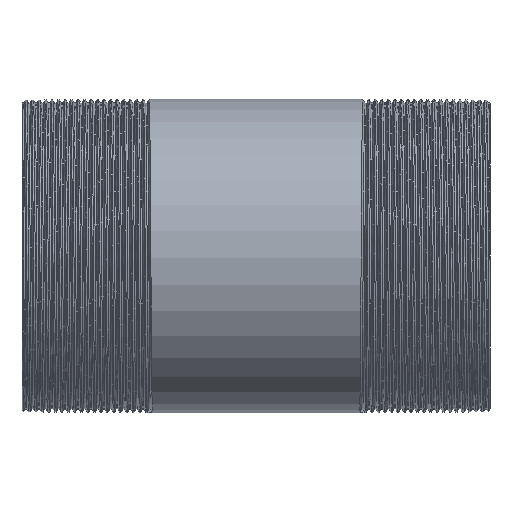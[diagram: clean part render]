
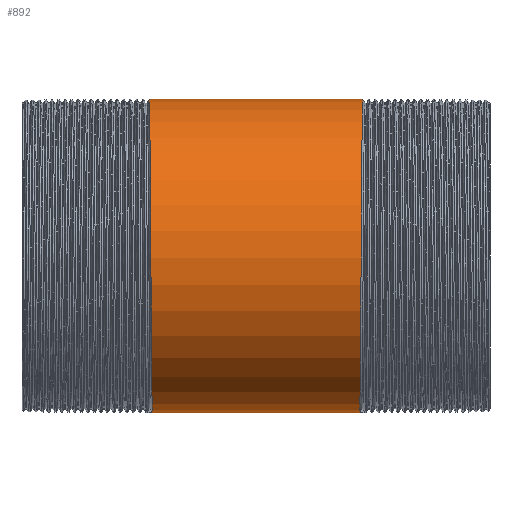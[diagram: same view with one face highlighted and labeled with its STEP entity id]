
A CAD part, front view. The second image highlights one B-rep face of the part: STEP entity #892.
In plain terms, the highlighted cylindrical face has radius 30.15 mm (diameter 60.3 mm), a partial arc.
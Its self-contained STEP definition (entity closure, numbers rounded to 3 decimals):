
#892 = ADVANCED_FACE ( 'NONE', ( #11647 ), #4234, .T. ) ;
#1322 = CARTESIAN_POINT ( 'NONE',  ( -20.141, -30.15, -12.489 ) ) ;
#1623 = CARTESIAN_POINT ( 'NONE',  ( -20.531, 0., 30.15 ) ) ;
#1712 = CARTESIAN_POINT ( 'NONE',  ( -20.453, -12.489, 30.15 ) ) ;
#1764 = DIRECTION ( 'NONE',  ( -1., 0., 0. ) ) ;
#1893 = CARTESIAN_POINT ( 'NONE',  ( -20.531, 0., 30.15 ) ) ;
#2305 = EDGE_LOOP ( 'NONE', ( #6417, #13532, #3732, #14582 ) ) ;
#2740 = EDGE_CURVE ( 'NONE', #8764, #8556, #11856, .T. ) ;
#2901 = CARTESIAN_POINT ( 'NONE',  ( -19.906, 0., -30.15 ) ) ;
#2960 = CARTESIAN_POINT ( 'NONE',  ( -149.494, 0., 30.15 ) ) ;
#2977 = EDGE_CURVE ( 'NONE', #8556, #16615, #13280, .T. ) ;
#3607 = VECTOR ( 'NONE', #1764, 1000. ) ;
#3732 = ORIENTED_EDGE ( 'NONE', *, *, #4014, .T. ) ;
#3749 = CARTESIAN_POINT ( 'NONE',  ( 19.984, -12.489, -30.15 ) ) ;
#4014 = EDGE_CURVE ( 'NONE', #11566, #16615, #11401, .T. ) ;
#4183 = CARTESIAN_POINT ( 'NONE',  ( 20.141, -30.15, -12.489 ) ) ;
#4234 = CYLINDRICAL_SURFACE ( 'NONE', #9956, 30.15 ) ;
#5598 = CARTESIAN_POINT ( 'NONE',  ( 20.531, 0., 30.15 ) ) ;
#6417 = ORIENTED_EDGE ( 'NONE', *, *, #2740, .F. ) ;
#6965 = CARTESIAN_POINT ( 'NONE',  ( -20.219, -30.15, 0. ) ) ;
#7065 = EDGE_CURVE ( 'NONE', #8764, #11566, #16451, .T. ) ;
#7096 = DIRECTION ( 'NONE',  ( -1., 0., 0. ) ) ;
#7151 = CARTESIAN_POINT ( 'NONE',  ( -20.063, -21.319, -21.319 ) ) ;
#7375 = DIRECTION ( 'NONE',  ( 0., 0., 1. ) ) ;
#8440 = CARTESIAN_POINT ( 'NONE',  ( 20.453, -12.489, 30.15 ) ) ;
#8542 = CARTESIAN_POINT ( 'NONE',  ( -19.984, -12.489, -30.15 ) ) ;
#8556 = VERTEX_POINT ( 'NONE', #9726 ) ;
#8764 = VERTEX_POINT ( 'NONE', #11415 ) ;
#9639 = CARTESIAN_POINT ( 'NONE',  ( 20.375, -21.319, 21.319 ) ) ;
#9726 = CARTESIAN_POINT ( 'NONE',  ( -19.906, 0., -30.15 ) ) ;
#9824 = CARTESIAN_POINT ( 'NONE',  ( 20.531, 0., 30.15 ) ) ;
#9956 = AXIS2_PLACEMENT_3D ( 'NONE', #11464, #7096, #7375 ) ;
#10502 = CARTESIAN_POINT ( 'NONE',  ( -20.297, -30.15, 12.489 ) ) ;
#11326 = CARTESIAN_POINT ( 'NONE',  ( 19.906, 0., -30.15 ) ) ;
#11401 = LINE ( 'NONE', #2960, #17799 ) ;
#11415 = CARTESIAN_POINT ( 'NONE',  ( 19.906, 0., -30.15 ) ) ;
#11464 = CARTESIAN_POINT ( 'NONE',  ( -149.494, 0., 0. ) ) ;
#11566 = VERTEX_POINT ( 'NONE', #5598 ) ;
#11579 = DIRECTION ( 'NONE',  ( -1., 0., 0. ) ) ;
#11647 = FACE_OUTER_BOUND ( 'NONE', #2305, .T. ) ;
#11856 = LINE ( 'NONE', #14456, #3607 ) ;
#13280 =( BOUNDED_CURVE ( )  B_SPLINE_CURVE ( 2, ( #2901, #8542, #7151, #1322, #6965, #10502, #14588, #1712, #1893 ),
 .UNSPECIFIED., .F., .T. ) 
 B_SPLINE_CURVE_WITH_KNOTS ( ( 3, 2, 2, 2, 3 ),
 ( 0., 0.006, 0.013, 0.019, 0.025 ),
 .UNSPECIFIED. ) 
 CURVE ( )  GEOMETRIC_REPRESENTATION_ITEM ( )  RATIONAL_B_SPLINE_CURVE ( ( 1., 0.924, 1., 0.924, 1., 0.924, 1., 0.924, 1. ) ) 
 REPRESENTATION_ITEM ( '' )  );
#13532 = ORIENTED_EDGE ( 'NONE', *, *, #7065, .T. ) ;
#14456 = CARTESIAN_POINT ( 'NONE',  ( -149.494, 0., -30.15 ) ) ;
#14582 = ORIENTED_EDGE ( 'NONE', *, *, #2977, .F. ) ;
#14588 = CARTESIAN_POINT ( 'NONE',  ( -20.375, -21.319, 21.319 ) ) ;
#15303 = CARTESIAN_POINT ( 'NONE',  ( 20.063, -21.319, -21.319 ) ) ;
#16347 = CARTESIAN_POINT ( 'NONE',  ( 20.297, -30.15, 12.489 ) ) ;
#16451 =( BOUNDED_CURVE ( )  B_SPLINE_CURVE ( 2, ( #11326, #3749, #15303, #4183, #18163, #16347, #9639, #8440, #9824 ),
 .UNSPECIFIED., .F., .T. ) 
 B_SPLINE_CURVE_WITH_KNOTS ( ( 3, 2, 2, 2, 3 ),
 ( 0., 0.006, 0.013, 0.019, 0.025 ),
 .UNSPECIFIED. ) 
 CURVE ( )  GEOMETRIC_REPRESENTATION_ITEM ( )  RATIONAL_B_SPLINE_CURVE ( ( 1., 0.924, 1., 0.924, 1., 0.924, 1., 0.924, 1. ) ) 
 REPRESENTATION_ITEM ( '' )  );
#16615 = VERTEX_POINT ( 'NONE', #1623 ) ;
#17799 = VECTOR ( 'NONE', #11579, 1000. ) ;
#18163 = CARTESIAN_POINT ( 'NONE',  ( 20.219, -30.15, 0. ) ) ;
